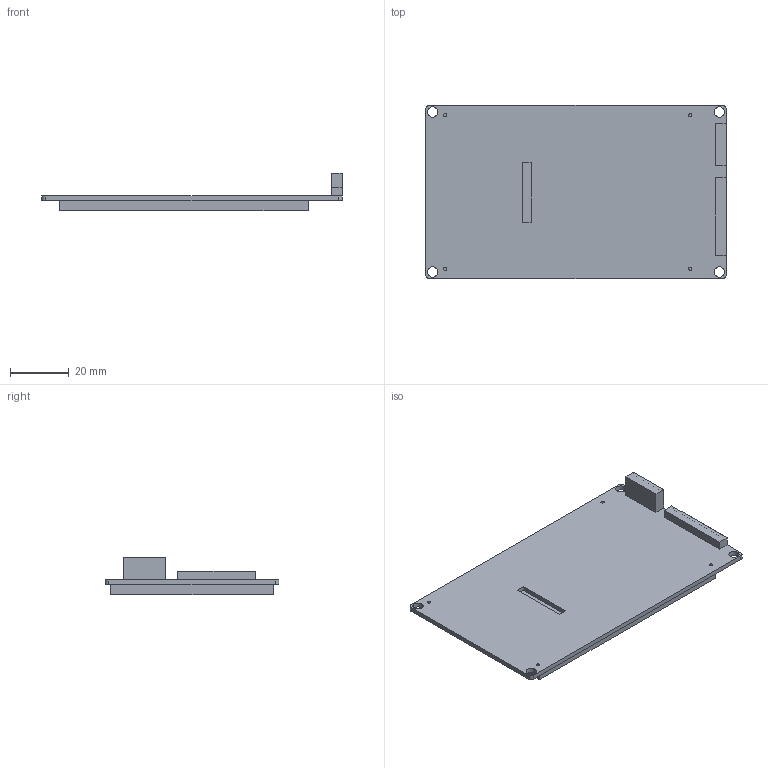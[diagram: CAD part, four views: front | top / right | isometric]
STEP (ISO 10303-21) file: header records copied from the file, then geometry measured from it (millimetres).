
FILE_DESCRIPTION (( 'STEP AP203' ), '1' );
FILE_NAME ('3.5TFT_V1.9.STEP', '2019-09-24T09:59:00', ( 'Looming' ), ( 'Microsoft' ), 'SwSTEP 2.0', 'SolidWorks 2016', '' );
FILE_SCHEMA (( 'CONFIG_CONTROL_DESIGN' ));
Length unit declared in the file: millimetre
Products named in the file (1): 3.5TFT_V1.9
Bounding box: 102.1 x 59 x 12.85 mm (x, y, z)
Volume: 26393.2 mm3; surface area: 14176.2 mm2
Topology: 1 solids, 1 shells, 63 faces, 156 edges, 104 vertices
Faces by surface type: plane 43, cylinder 20
Entity records: 1963 total; most frequent: CARTESIAN_POINT 324, DIRECTION 324, ORIENTED_EDGE 312, EDGE_CURVE 156, VECTOR 116, LINE 116, VERTEX_POINT 104, AXIS2_PLACEMENT_3D 104
